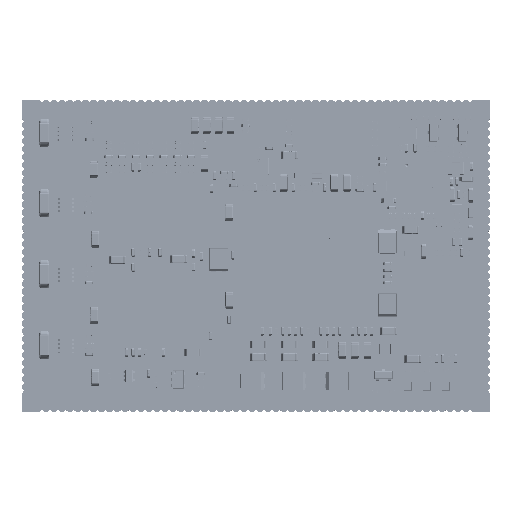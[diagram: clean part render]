
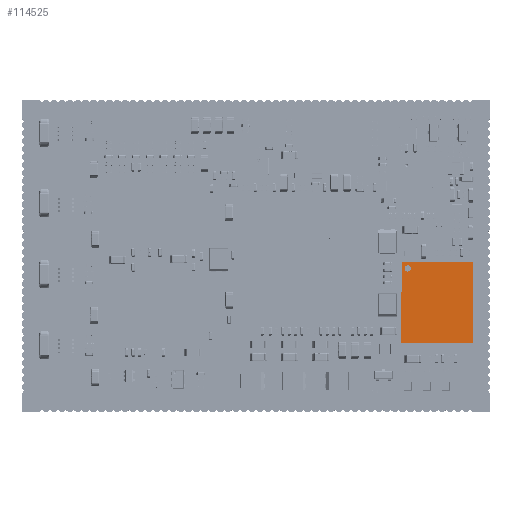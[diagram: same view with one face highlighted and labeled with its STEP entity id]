
A CAD part, top view. The second image highlights one B-rep face of the part: STEP entity #114525.
In plain terms, the highlighted planar face has unit normal (0, 0, 1).
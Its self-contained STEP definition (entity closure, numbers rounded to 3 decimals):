
#246 = VECTOR ( 'NONE', #196291, 1000. ) ;
#5781 = CIRCLE ( 'NONE', #92406, 0.5 ) ;
#6390 = LINE ( 'NONE', #95321, #157111 ) ;
#11055 = LINE ( 'NONE', #54793, #246 ) ;
#12015 = DIRECTION ( 'NONE',  ( 1., 0., 0. ) ) ;
#19242 = VERTEX_POINT ( 'NONE', #41273 ) ;
#27299 = CARTESIAN_POINT ( 'NONE',  ( 5.75, -6.5, 0.736 ) ) ;
#31253 = CARTESIAN_POINT ( 'NONE',  ( -5.75, -6.5, 0.736 ) ) ;
#31876 = EDGE_CURVE ( 'NONE', #107028, #92161, #6390, .T. ) ;
#37066 = DIRECTION ( 'NONE',  ( 0., 1., 0. ) ) ;
#38084 = FACE_OUTER_BOUND ( 'NONE', #229031, .T. ) ;
#41273 = CARTESIAN_POINT ( 'NONE',  ( -4.25, 5.5, 0.736 ) ) ;
#54793 = CARTESIAN_POINT ( 'NONE',  ( -5.75, 6.5, 0.736 ) ) ;
#61477 = EDGE_CURVE ( 'NONE', #117729, #107028, #243520, .T. ) ;
#63257 = AXIS2_PLACEMENT_3D ( 'NONE', #221940, #250428, #90708 ) ;
#65479 = ORIENTED_EDGE ( 'NONE', *, *, #140707, .T. ) ;
#68980 = VECTOR ( 'NONE', #281469, 1000. ) ;
#74203 = DIRECTION ( 'NONE',  ( -1., 0., 0. ) ) ;
#90708 = DIRECTION ( 'NONE',  ( 1., 0., 0. ) ) ;
#92161 = VERTEX_POINT ( 'NONE', #234059 ) ;
#92406 = AXIS2_PLACEMENT_3D ( 'NONE', #195745, #125015, #12015 ) ;
#95321 = CARTESIAN_POINT ( 'NONE',  ( -5.75, 6.5, 0.736 ) ) ;
#98779 = EDGE_CURVE ( 'NONE', #198867, #19242, #125190, .T. ) ;
#105857 = ORIENTED_EDGE ( 'NONE', *, *, #260424, .F. ) ;
#107028 = VERTEX_POINT ( 'NONE', #214236 ) ;
#108205 = CARTESIAN_POINT ( 'NONE',  ( -5.25, 5.5, 0.736 ) ) ;
#114525 = ADVANCED_FACE ( 'NONE', ( #197743, #38084 ), #129962, .T. ) ;
#117729 = VERTEX_POINT ( 'NONE', #27299 ) ;
#125015 = DIRECTION ( 'NONE',  ( 0., 0., 1. ) ) ;
#125190 = CIRCLE ( 'NONE', #260519, 0.5 ) ;
#129962 = PLANE ( 'NONE',  #63257 ) ;
#134038 = ORIENTED_EDGE ( 'NONE', *, *, #98779, .F. ) ;
#140707 = EDGE_CURVE ( 'NONE', #228170, #117729, #189445, .T. ) ;
#157111 = VECTOR ( 'NONE', #74203, 1000. ) ;
#158423 = ORIENTED_EDGE ( 'NONE', *, *, #31876, .T. ) ;
#181729 = DIRECTION ( 'NONE',  ( 0., 0., 1. ) ) ;
#182206 = ORIENTED_EDGE ( 'NONE', *, *, #193165, .T. ) ;
#189445 = LINE ( 'NONE', #31253, #68980 ) ;
#193165 = EDGE_CURVE ( 'NONE', #92161, #228170, #11055, .T. ) ;
#195745 = CARTESIAN_POINT ( 'NONE',  ( -4.75, 5.5, 0.736 ) ) ;
#196291 = DIRECTION ( 'NONE',  ( 0., -1., 0. ) ) ;
#197077 = ORIENTED_EDGE ( 'NONE', *, *, #61477, .T. ) ;
#197743 = FACE_BOUND ( 'NONE', #280605, .T. ) ;
#198247 = CARTESIAN_POINT ( 'NONE',  ( 5.75, 6.5, 0.736 ) ) ;
#198867 = VERTEX_POINT ( 'NONE', #108205 ) ;
#202927 = CARTESIAN_POINT ( 'NONE',  ( -4.75, 5.5, 0.736 ) ) ;
#214236 = CARTESIAN_POINT ( 'NONE',  ( 5.75, 6.5, 0.736 ) ) ;
#221940 = CARTESIAN_POINT ( 'NONE',  ( 0., 0., 0.736 ) ) ;
#228170 = VERTEX_POINT ( 'NONE', #271586 ) ;
#229031 = EDGE_LOOP ( 'NONE', ( #182206, #65479, #197077, #158423 ) ) ;
#234059 = CARTESIAN_POINT ( 'NONE',  ( -5.75, 6.5, 0.736 ) ) ;
#243520 = LINE ( 'NONE', #198247, #270778 ) ;
#250428 = DIRECTION ( 'NONE',  ( 0., 0., 1. ) ) ;
#260424 = EDGE_CURVE ( 'NONE', #19242, #198867, #5781, .T. ) ;
#260519 = AXIS2_PLACEMENT_3D ( 'NONE', #202927, #181729, #294933 ) ;
#270778 = VECTOR ( 'NONE', #37066, 1000. ) ;
#271586 = CARTESIAN_POINT ( 'NONE',  ( -5.75, -6.5, 0.736 ) ) ;
#280605 = EDGE_LOOP ( 'NONE', ( #105857, #134038 ) ) ;
#281469 = DIRECTION ( 'NONE',  ( 1., 0., 0. ) ) ;
#294933 = DIRECTION ( 'NONE',  ( 1., 0., 0. ) ) ;
